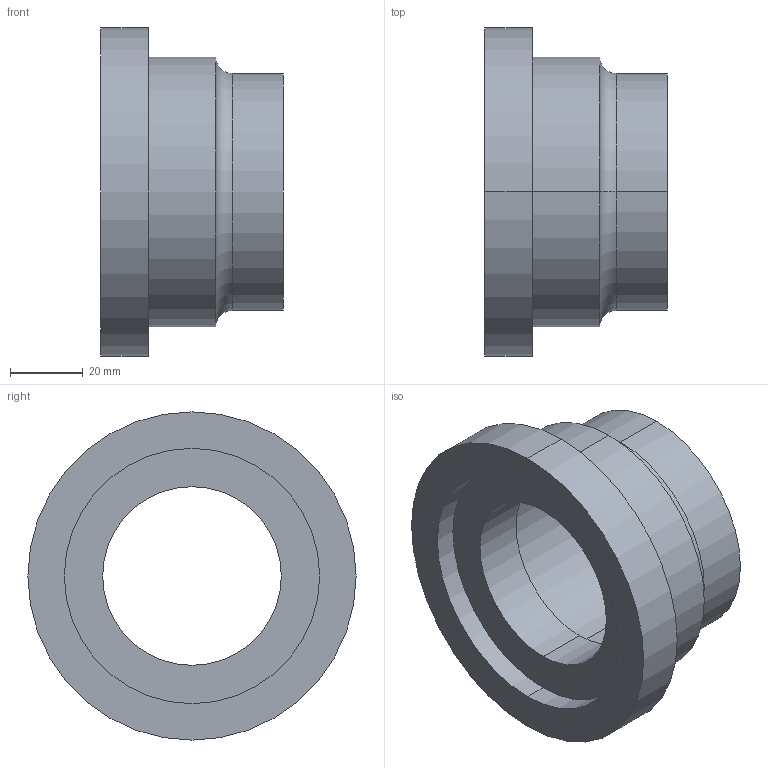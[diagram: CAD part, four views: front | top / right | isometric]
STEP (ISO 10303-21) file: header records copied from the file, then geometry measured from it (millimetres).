
FILE_DESCRIPTION (( 'STEP AP203' ), '1' );
FILE_NAME ('2 (2 1-8銅管用).STEP', '2014-07-15T01:26:21', ( 'jameswang' ), ( '' ), 'SwSTEP 2.0', 'SolidWorks 2013', '' );
FILE_SCHEMA (( 'CONFIG_CONTROL_DESIGN' ));
Length unit declared in the file: millimetre
Products named in the file (1): 2 (2 1-8銅管用)
Bounding box: 50 x 90 x 90 mm (x, y, z)
Volume: 105185 mm3; surface area: 28627.5 mm2
Topology: 1 solids, 1 shells, 23 faces, 46 edges, 28 vertices
Faces by surface type: cylinder 12, plane 5, torus 4, cone 2
Entity records: 689 total; most frequent: DIRECTION 126, CARTESIAN_POINT 98, ORIENTED_EDGE 92, AXIS2_PLACEMENT_3D 56, EDGE_CURVE 46, CIRCLE 32, EDGE_LOOP 28, VERTEX_POINT 28
